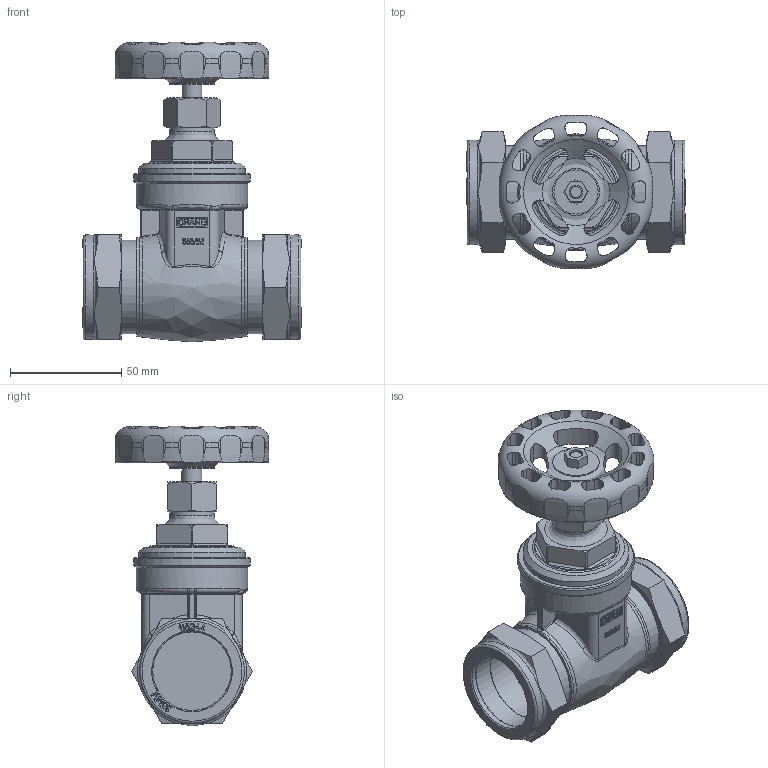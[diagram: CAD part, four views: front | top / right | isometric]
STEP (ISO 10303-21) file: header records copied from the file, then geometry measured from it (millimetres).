
FILE_DESCRIPTION((''),'2;1');
FILE_NAME('P:\Fastrack\53972_CRANE 3D\Gate Valves\Work Space\Handwheel\D155C_35mm\D155C_35mm.stp','2011-03-11T14:52:46',('btaylor'),(''),'Autodesk Inventor 2008','Autodesk Inventor 2008','');
FILE_SCHEMA(('AUTOMOTIVE_DESIGN { 1 0 10303 214 1 1 1 1 }'));
Length unit declared in the file: millimetre
Products named in the file (1): D155C_35mm
Bounding box: 97.91 x 68.9 x 134.5 mm (x, y, z)
Volume: 219074.5 mm3; surface area: 58021.8 mm2
Topology: 1 solids, 1 shells, 1055 faces, 2919 edges, 1904 vertices
Faces by surface type: plane 506, bspline 266, cylinder 207, cone 57, torus 19
Full cylindrical faces by diameter (mm): 6.007 x1, 9 x1, 19.8 x2, 20 x1, 21 x1, 35.222 x1, 35.225 x1, 35.3 x4, 41.997 x1, 42 x3, 44.598 x1, 44.6 x1, 46.9 x2, 47.7 x1, 50 x1, 52.5 x1
Entity records: 42851 total; most frequent: CARTESIAN_POINT 17622, ORIENTED_EDGE 5632, DIRECTION 3878, EDGE_CURVE 2816, VERTEX_POINT 1876, VECTOR 1522, LINE 1522, EDGE_LOOP 1208
